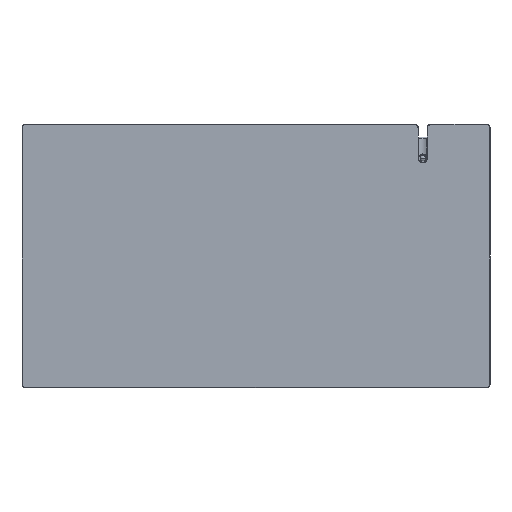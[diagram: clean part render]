
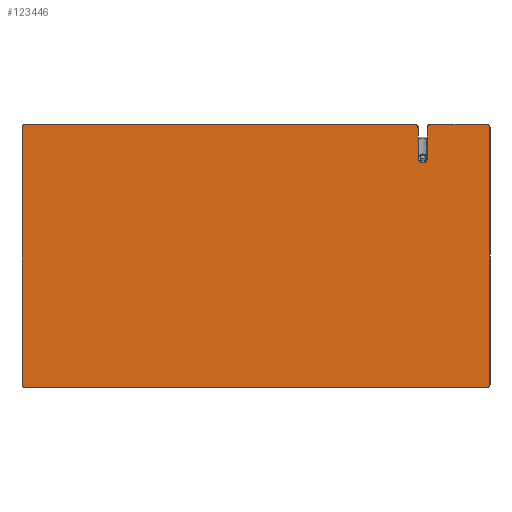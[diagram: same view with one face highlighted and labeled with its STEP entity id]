
A CAD part, top view. The second image highlights one B-rep face of the part: STEP entity #123446.
In plain terms, the highlighted planar face has unit normal (0, 0, 1).
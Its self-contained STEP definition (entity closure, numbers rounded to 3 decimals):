
#123419 = EDGE_CURVE('',#123420,#123422,#123424,.T.);
#123420 = VERTEX_POINT('',#123421);
#123421 = CARTESIAN_POINT('',(-394.,-224.5,5.));
#123422 = VERTEX_POINT('',#123423);
#123423 = CARTESIAN_POINT('',(394.,-224.5,5.));
#123424 = LINE('',#123425,#123426);
#123425 = CARTESIAN_POINT('',(-394.,-224.5,
    5.));
#123426 = VECTOR('',#123427,1.);
#123427 = DIRECTION('',(1.,0.,0.));
#123446 = ADVANCED_FACE('',(#123447),#123559,.T.);
#123447 = FACE_BOUND('',#123448,.F.);
#123448 = EDGE_LOOP('',(#123449,#123458,#123459,#123468,#123476,#123485,
    #123493,#123502,#123510,#123519,#123527,#123536,#123544,#123553));
#123449 = ORIENTED_EDGE('',*,*,#123450,.F.);
#123450 = EDGE_CURVE('',#123422,#123451,#123453,.T.);
#123451 = VERTEX_POINT('',#123452);
#123452 = CARTESIAN_POINT('',(399.5,-219.,5.));
#123453 = CIRCLE('',#123454,5.5);
#123454 = AXIS2_PLACEMENT_3D('',#123455,#123456,#123457);
#123455 = CARTESIAN_POINT('',(394.,-219.,5.));
#123456 = DIRECTION('',(0.,0.,1.));
#123457 = DIRECTION('',(0.,-1.,0.));
#123458 = ORIENTED_EDGE('',*,*,#123419,.F.);
#123459 = ORIENTED_EDGE('',*,*,#123460,.F.);
#123460 = EDGE_CURVE('',#123461,#123420,#123463,.T.);
#123461 = VERTEX_POINT('',#123462);
#123462 = CARTESIAN_POINT('',(-399.5,-219.,
    5.));
#123463 = CIRCLE('',#123464,5.5);
#123464 = AXIS2_PLACEMENT_3D('',#123465,#123466,#123467);
#123465 = CARTESIAN_POINT('',(-394.,-219.,5.));
#123466 = DIRECTION('',(0.,0.,1.));
#123467 = DIRECTION('',(-1.,0.,0.));
#123468 = ORIENTED_EDGE('',*,*,#123469,.F.);
#123469 = EDGE_CURVE('',#123470,#123461,#123472,.T.);
#123470 = VERTEX_POINT('',#123471);
#123471 = CARTESIAN_POINT('',(-399.5,219.,5.));
#123472 = LINE('',#123473,#123474);
#123473 = CARTESIAN_POINT('',(-399.5,219.,
    5.));
#123474 = VECTOR('',#123475,1.);
#123475 = DIRECTION('',(0.,-1.,0.));
#123476 = ORIENTED_EDGE('',*,*,#123477,.F.);
#123477 = EDGE_CURVE('',#123478,#123470,#123480,.T.);
#123478 = VERTEX_POINT('',#123479);
#123479 = CARTESIAN_POINT('',(-394.,224.5,
    5.));
#123480 = CIRCLE('',#123481,5.5);
#123481 = AXIS2_PLACEMENT_3D('',#123482,#123483,#123484);
#123482 = CARTESIAN_POINT('',(-394.,219.,5.));
#123483 = DIRECTION('',(0.,-0.,1.));
#123484 = DIRECTION('',(0.,1.,0.));
#123485 = ORIENTED_EDGE('',*,*,#123486,.F.);
#123486 = EDGE_CURVE('',#123487,#123478,#123489,.T.);
#123487 = VERTEX_POINT('',#123488);
#123488 = CARTESIAN_POINT('',(271.5,224.5,5.));
#123489 = LINE('',#123490,#123491);
#123490 = CARTESIAN_POINT('',(271.5,224.5,
    5.));
#123491 = VECTOR('',#123492,1.);
#123492 = DIRECTION('',(-1.,0.,0.));
#123493 = ORIENTED_EDGE('',*,*,#123494,.F.);
#123494 = EDGE_CURVE('',#123495,#123487,#123497,.T.);
#123495 = VERTEX_POINT('',#123496);
#123496 = CARTESIAN_POINT('',(277.,219.,
    5.));
#123497 = CIRCLE('',#123498,5.5);
#123498 = AXIS2_PLACEMENT_3D('',#123499,#123500,#123501);
#123499 = CARTESIAN_POINT('',(271.5,219.,5.));
#123500 = DIRECTION('',(0.,0.,1.));
#123501 = DIRECTION('',(1.,0.,-0.));
#123502 = ORIENTED_EDGE('',*,*,#123503,.F.);
#123503 = EDGE_CURVE('',#123504,#123495,#123506,.T.);
#123504 = VERTEX_POINT('',#123505);
#123505 = CARTESIAN_POINT('',(277.,167.,5.));
#123506 = LINE('',#123507,#123508);
#123507 = CARTESIAN_POINT('',(277.,167.,
    5.));
#123508 = VECTOR('',#123509,1.);
#123509 = DIRECTION('',(0.,1.,0.));
#123510 = ORIENTED_EDGE('',*,*,#123511,.F.);
#123511 = EDGE_CURVE('',#123512,#123504,#123514,.T.);
#123512 = VERTEX_POINT('',#123513);
#123513 = CARTESIAN_POINT('',(293.,167.,
    5.));
#123514 = CIRCLE('',#123515,8.);
#123515 = AXIS2_PLACEMENT_3D('',#123516,#123517,#123518);
#123516 = CARTESIAN_POINT('',(285.,167.,5.));
#123517 = DIRECTION('',(0.,0.,-1.));
#123518 = DIRECTION('',(1.,0.,0.));
#123519 = ORIENTED_EDGE('',*,*,#123520,.F.);
#123520 = EDGE_CURVE('',#123521,#123512,#123523,.T.);
#123521 = VERTEX_POINT('',#123522);
#123522 = CARTESIAN_POINT('',(293.,219.,5.));
#123523 = LINE('',#123524,#123525);
#123524 = CARTESIAN_POINT('',(293.,219.,
    5.));
#123525 = VECTOR('',#123526,1.);
#123526 = DIRECTION('',(0.,-1.,0.));
#123527 = ORIENTED_EDGE('',*,*,#123528,.F.);
#123528 = EDGE_CURVE('',#123529,#123521,#123531,.T.);
#123529 = VERTEX_POINT('',#123530);
#123530 = CARTESIAN_POINT('',(298.5,224.5,
    5.));
#123531 = CIRCLE('',#123532,5.5);
#123532 = AXIS2_PLACEMENT_3D('',#123533,#123534,#123535);
#123533 = CARTESIAN_POINT('',(298.5,219.,5.));
#123534 = DIRECTION('',(0.,-0.,1.));
#123535 = DIRECTION('',(0.,1.,0.));
#123536 = ORIENTED_EDGE('',*,*,#123537,.F.);
#123537 = EDGE_CURVE('',#123538,#123529,#123540,.T.);
#123538 = VERTEX_POINT('',#123539);
#123539 = CARTESIAN_POINT('',(394.,224.5,5.));
#123540 = LINE('',#123541,#123542);
#123541 = CARTESIAN_POINT('',(394.,224.5,
    5.));
#123542 = VECTOR('',#123543,1.);
#123543 = DIRECTION('',(-1.,0.,0.));
#123544 = ORIENTED_EDGE('',*,*,#123545,.F.);
#123545 = EDGE_CURVE('',#123546,#123538,#123548,.T.);
#123546 = VERTEX_POINT('',#123547);
#123547 = CARTESIAN_POINT('',(399.5,219.,
    5.));
#123548 = CIRCLE('',#123549,5.5);
#123549 = AXIS2_PLACEMENT_3D('',#123550,#123551,#123552);
#123550 = CARTESIAN_POINT('',(394.,219.,5.));
#123551 = DIRECTION('',(0.,0.,1.));
#123552 = DIRECTION('',(1.,0.,-0.));
#123553 = ORIENTED_EDGE('',*,*,#123554,.F.);
#123554 = EDGE_CURVE('',#123451,#123546,#123555,.T.);
#123555 = LINE('',#123556,#123557);
#123556 = CARTESIAN_POINT('',(399.5,-219.,
    5.));
#123557 = VECTOR('',#123558,1.);
#123558 = DIRECTION('',(0.,1.,0.));
#123559 = PLANE('',#123560);
#123560 = AXIS2_PLACEMENT_3D('',#123561,#123562,#123563);
#123561 = CARTESIAN_POINT('',(0.,0.,5.));
#123562 = DIRECTION('',(0.,0.,1.));
#123563 = DIRECTION('',(1.,0.,-0.));
